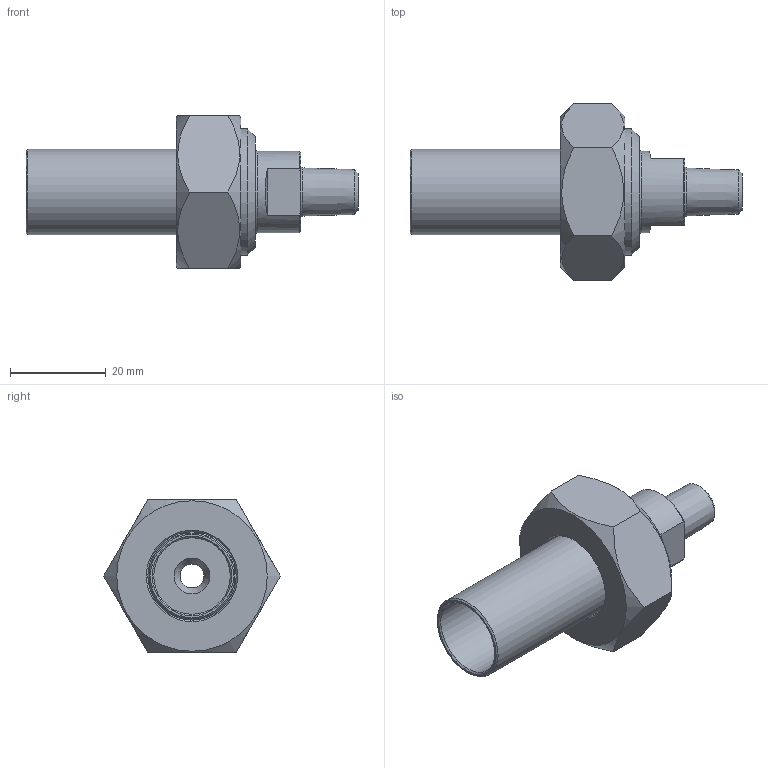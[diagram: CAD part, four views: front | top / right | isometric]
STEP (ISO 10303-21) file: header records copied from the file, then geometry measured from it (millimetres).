
FILE_DESCRIPTION(/* description */ (''),/* implementation_level */ '2;1');
FILE_NAME(/* name */ 'C:\Users\cad\Desktop\Zeichnungen neu von Ralph\Ganze Kupplungen\3D_Kupplung-R666-PE-UG\3D_R666-PE-UG-18-DN20-DN6_1711309517.stp',/* time_stamp */ '2021-07-16T10:45:43+02:00',/* author */ ('cad'),/* organization */ (''),/* preprocessor_version */ 'ST-DEVELOPER v18.1',/* originating_system */ 'Autodesk Inventor 2022',/* authorisation */ '');
FILE_SCHEMA (('AUTOMOTIVE_DESIGN { 1 0 10303 214 3 1 1 }'));
Length unit declared in the file: millimetre
Products named in the file (4): 3D_R666-PE-UG-18-DN20-DN6_1711309517; 3D_R666-M-DN20_17113920; 3D_R666-UG-DN6-DN20_17113610; 3D_R666-PE-18-DN20_17113463
Assembly tree (3 placements, depth 2):
  3D_R666-PE-UG-18-DN20-DN6_1711309517
    3D_R666-M-DN20_17113920
    3D_R666-UG-DN6-DN20_17113610
    3D_R666-PE-18-DN20_17113463
Bounding box: 69.5 x 36.95 x 32 mm (x, y, z)
Volume: 15903.1 mm3; surface area: 10882.4 mm2
Topology: 3 solids, 3 shells, 50 faces, 115 edges, 75 vertices
Faces by surface type: plane 20, cone 18, cylinder 8, torus 4
Full cylindrical faces by diameter (mm): 5 x1, 16 x1, 17 x1, 18 x1, 18.5 x1, 23.5 x1, 24.117 x1, 26.4 x1
Entity records: 1579 total; most frequent: CARTESIAN_POINT 279, DIRECTION 274, ORIENTED_EDGE 230, AXIS2_PLACEMENT_3D 118, EDGE_CURVE 115, VERTEX_POINT 75, EDGE_LOOP 60, CIRCLE 59
